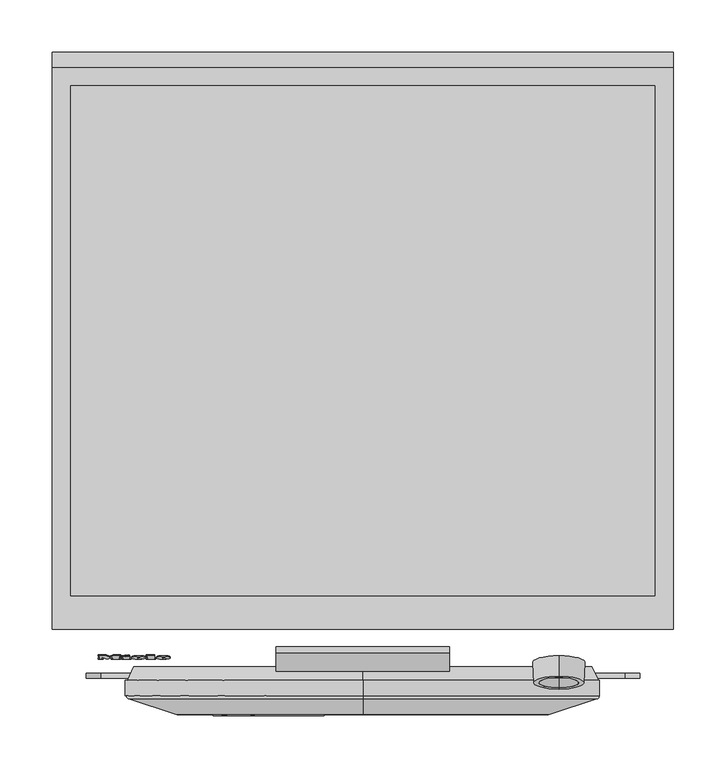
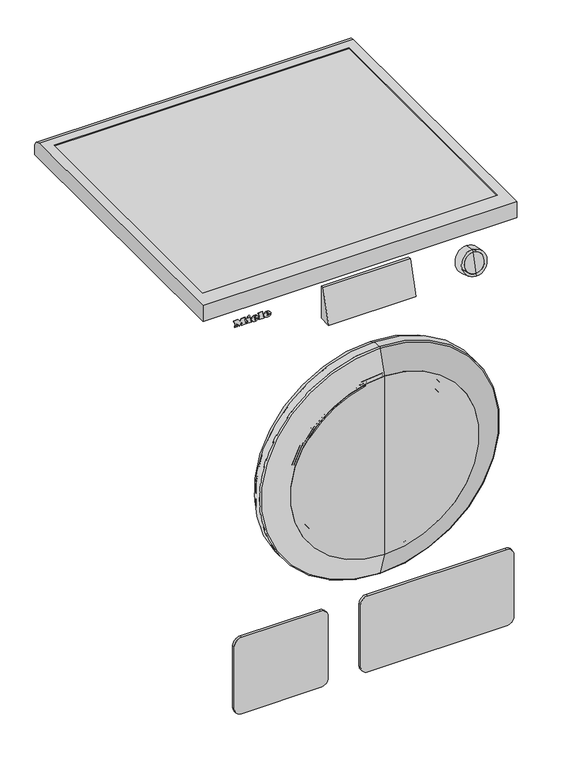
"""IFC4 building model written with IfcOpenShell, lengths in millimetres: proxy geometry, 12130150_NL_WEF674WPS_LW : 11EF6743_NL_12130150_WEF674WPS_LW."""

from ifc_helpers import new_model, si_unit, point, frame, frame_2d, origin, place, context, project, spatial, polyline, circle_curve, ellipse_curve, trimmed, segment, composite_curve, outline, extrude, source, transform, mapped, element, save
from ifc_brep_helpers import plane_surface, cylinder_surface, revolved_surface, extruded_surface, advanced_brep


def specialty_equipment_6f7c696d(model_context):
    return source(origin(), model_context, "Body", "SolidModel", [
        extrude(outline(polyline([(0.0, 0.0), (0.0, -1.8582), (-7.9458, -1.8582), (-11.286, 2.4168), (-14.6148, -1.8582), (-21.5574, -1.8582), (-21.5574, 0.0), (-20.1096, 0.0), (-20.1096, 7.6266), (-21.5574, 7.6266), (-21.5574, 9.5418), (-12.4602, 9.5418), (-12.4602, 7.6266), (-13.8624, 7.6266), (-13.8624, 2.6015777), (-8.7438, 9.5418), (-3.648, 2.7988753), (-3.648, 7.6266), (-5.016, 7.6266), (-5.016, 9.5418), (0.0, 9.5418), (0.0, 7.6266), (-1.3794, 7.6266), (-1.3794, 0.0), (0.0, 0.0)])), frame((-254.0, -578.2806922, 817.2814843), z_axis=(0.0, -0.9659258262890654, 0.2588190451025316), x_axis=(-1.0, 0.0, 0.0)), (0.0, 0.0, 1.0), 1.0),
        extrude(outline(polyline([(0.0, 0.0), (-0.0155448, -4.2740444), (-2.0506341, -4.2637237), (-2.0399312, 0.0), (0.0, 0.0)])), frame((-228.464, -577.9348294, 818.5722618), z_axis=(0.0, -0.9659258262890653, 0.2588190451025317), x_axis=(-0.4247202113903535, 0.23431526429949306, 0.8744764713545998)), (0.0, 0.0, 1.0), 1.0),
        extrude(outline(polyline([(-0.7030818, 3.4401063), (-3.9616202, -3.5057256), (-10.0405132, -0.6538993), (-10.6021632, -1.8511006), (-12.336041, -1.0376764), (-8.5158526, 7.1053568), (-6.7819748, 6.2919326), (-7.3581502, 5.0637692), (-3.1266627, 3.0786269), (-2.5504873, 4.3067903), (-0.7030818, 3.4401063)])), frame((-228.464, -577.9348294, 818.5722618), z_axis=(0.0, -0.9659258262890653, 0.2588190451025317), x_axis=(-0.4247202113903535, 0.23431526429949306, 0.8744764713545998)), (0.0, 0.0, 1.0), 1.0),
        extrude(outline(polyline([(0.0, 0.0), (0.0, -1.8582), (-7.8432, -1.8582), (-7.8432, 7.6266), (-9.2454, 7.6266), (-9.2454, 9.5418), (0.0, 9.5418), (0.0, 7.6266), (-1.368, 7.6266), (-1.368, 0.0), (0.0, 0.0)])), frame((-207.7388, -578.2806922, 817.2814843), z_axis=(0.0, -0.9659258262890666, 0.2588190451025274), x_axis=(-1.0, 0.0, 0.0)), (0.0, 0.0, 1.0), 1.0),
        advanced_brep(
        [(-216.0038, -581.029736, 810.8856165), (-216.0038, -580.7317318, 811.9977835), (-208.3772, -580.7317318, 811.9977835), (-221.6468, -580.7317318, 811.9977835), (-218.5118, -581.7290133, 808.2758781), (-208.571, -581.029736, 810.8856165), (-212.0138, -581.029736, 810.8856165), (-214.727, -581.3601962, 809.6523224), (-216.0038, -580.354063, 813.4072624), (-216.0038, -580.0324545, 814.6075219), (-214.0544, -580.0324545, 814.6075219), (-214.0544, -580.354063, 813.4072624), (-216.0038, -580.0638102, 810.6267974), (-214.727, -580.3942704, 809.3935033), (-212.0138, -580.0638102, 810.6267974), (-208.571, -580.0638102, 810.6267974), (-218.5118, -580.7630875, 808.017059), (-221.6468, -579.765806, 811.7389644), (-208.3772, -579.765806, 811.7389644), (-216.0038, -579.765806, 811.7389644), (-216.0038, -579.3881372, 813.1484434), (-214.0544, -579.3881372, 813.1484434), (-214.0544, -579.0665287, 814.3487028), (-216.0038, -579.0665287, 814.3487028)],
        [
            (0, 1),
            (1, 2),
            (2, 3, ellipse_curve(frame((-215.012, -580.7317318, 811.9977835), z_axis=(0.0, -0.9659258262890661, 0.2588190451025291), x_axis=(-1.0, 0.0, 0.0)), 6.6348, 5.4834)),
            (3, 4, circle_curve(frame((-217.2349378, -580.6314135, 812.3721763), z_axis=(0.0, -0.9659258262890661, 0.2588190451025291), x_axis=(0.0, -0.2588190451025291, -0.9659258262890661)), 4.4288556)),
            (4, 5, circle_curve(frame((-215.1448192, -579.8524717, 815.2792267), z_axis=(0.0, -0.9659258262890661, 0.2588190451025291), x_axis=(0.0, -0.2588190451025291, -0.9659258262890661)), 7.9940516)),
            (5, 6),
            (6, 7, circle_curve(frame((-214.1697412, -580.7553361, 811.909691), z_axis=(0.0, 0.9659258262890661, -0.2588190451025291), x_axis=(0.0, -0.2588190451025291, -0.9659258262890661)), 2.4025208)),
            (7, 0, circle_curve(frame((-214.727, -581.029736, 810.8856165), z_axis=(0.0, 0.9659258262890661, -0.2588190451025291), x_axis=(0.0, -0.2588190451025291, -0.9659258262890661)), 1.2768)),
            (8, 9),
            (9, 10, circle_curve(frame((-215.0291, -580.0324545, 814.6075219), z_axis=(0.0, 0.9659258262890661, -0.2588190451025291), x_axis=(0.0, -0.2588190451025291, -0.9659258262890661)), 0.9747)),
            (10, 11),
            (11, 8),
            (12, 13, circle_curve(frame((-214.727, -580.0638102, 810.6267974), z_axis=(0.0, -0.9659258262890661, 0.2588190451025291), x_axis=(0.0, -0.2588190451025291, -0.9659258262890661)), 1.2768)),
            (13, 14, circle_curve(frame((-214.1697412, -579.7894103, 811.650872), z_axis=(0.0, -0.9659258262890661, 0.2588190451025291), x_axis=(0.0, -0.2588190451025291, -0.9659258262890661)), 2.4025208)),
            (14, 15),
            (15, 16, circle_curve(frame((-215.1448192, -578.8865459, 815.0204076), z_axis=(0.0, 0.9659258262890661, -0.2588190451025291), x_axis=(0.0, -0.2588190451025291, -0.9659258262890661)), 7.9940516)),
            (16, 17, circle_curve(frame((-217.2349378, -579.6654877, 812.1133573), z_axis=(0.0, 0.9659258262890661, -0.2588190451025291), x_axis=(0.0, -0.2588190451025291, -0.9659258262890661)), 4.4288556)),
            (17, 18, ellipse_curve(frame((-215.012, -579.765806, 811.7389644), z_axis=(0.0, 0.9659258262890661, -0.2588190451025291), x_axis=(-1.0, 0.0, 0.0)), 6.6348, 5.4834)),
            (18, 19),
            (19, 12),
            (20, 21),
            (21, 22),
            (22, 23, circle_curve(frame((-215.0291, -579.0665287, 814.3487028), z_axis=(0.0, -0.9659258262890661, 0.2588190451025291), x_axis=(0.0, -0.2588190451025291, -0.9659258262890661)), 0.9747)),
            (23, 20),
            (0, 12),
            (19, 1),
            (18, 2),
            (5, 15),
            (14, 6),
            (17, 3),
            (13, 7),
            (16, 4),
            (8, 20),
            (23, 9),
            (22, 10),
            (21, 11),
        ],
        [
            plane_surface(frame((-216.0038, -580.7317318, 811.9977835), z_axis=(0.0, -0.9659258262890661, 0.2588190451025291), x_axis=(0.0, 0.2588190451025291, 0.9659258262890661))),
            plane_surface(frame((-216.0038, -579.765806, 811.7389644), z_axis=(0.0, 0.9659258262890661, -0.2588190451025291), x_axis=(0.0, -0.2588190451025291, -0.9659258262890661))),
            plane_surface(frame((-216.0038, -581.029736, 810.8856165), z_axis=(1.0, 0.0, 0.0), x_axis=(0.0, 0.9659258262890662, -0.25881904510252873))),
            plane_surface(frame((-216.0038, -580.7317318, 811.9977835), z_axis=(0.0, -0.25881904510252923, -0.9659258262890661), x_axis=(0.0, 0.9659258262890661, -0.25881904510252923))),
            plane_surface(frame((-208.571, -581.029736, 810.8856165), z_axis=(0.0, 0.25881904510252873, 0.9659258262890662), x_axis=(0.0, 0.9659258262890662, -0.25881904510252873))),
            extruded_surface(trimmed(ellipse_curve(frame((-215.012, -578.7998801, 811.4801454), z_axis=(0.0, -0.9659258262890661, 0.2588190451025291), x_axis=(-1.0, 0.0, 0.0)), 6.6348, 5.4834), [point((-208.3772, -578.7998801, 811.4801454))], [point((-221.6468, -578.7998801, 811.4801454))], True, "CARTESIAN"), (0.0, -0.965925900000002, 0.2588190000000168), 1.0000000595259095),
            revolved_surface(polyline([(-214.1697412, -580.4112283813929, 809.3302150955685), (-214.1697412, -581.3771542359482, 809.589034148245)]), (-214.1697412, -579.7894103, 811.650872), (0.0, 0.9659258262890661, -0.2588190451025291)),
            revolved_surface(polyline([(-214.727, -580.3942703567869, 809.393503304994), (-214.727, -581.3601962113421, 809.6523223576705)]), (-214.727, -580.0638102, 810.6267974), (0.0, 0.9659258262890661, -0.2588190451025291)),
            cylinder_surface(frame((-217.2349378, -579.6654877, 812.1133573), z_axis=(0.0, -0.9659258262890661, 0.2588190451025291), x_axis=(0.0, -0.2588190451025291, -0.9659258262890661)), 4.4288556),
            cylinder_surface(frame((-215.1448192, -578.8865459, 815.0204076), z_axis=(0.0, -0.9659258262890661, 0.2588190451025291), x_axis=(0.0, -0.2588190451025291, -0.9659258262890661)), 7.9940516),
            plane_surface(frame((-216.0038, -580.354063, 813.4072624), z_axis=(1.0, 0.0, 0.0), x_axis=(0.0, 0.9659258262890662, -0.25881904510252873))),
            revolved_surface(polyline([(-215.0291, -579.3187996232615, 813.407214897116), (-215.0291, -580.2847254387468, 813.6660339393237)]), (-215.0291, -579.0665287, 814.3487028), (0.0, 0.9659258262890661, -0.2588190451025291)),
            plane_surface(frame((-214.0544, -580.0324545, 814.6075219), z_axis=(-1.0, 0.0, 0.0), x_axis=(0.0, 0.9659258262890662, -0.25881904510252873))),
            plane_surface(frame((-214.0544, -580.354063, 813.4072624), z_axis=(0.0, 0.25881904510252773, 0.9659258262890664), x_axis=(0.0, 0.9659258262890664, -0.25881904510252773))),
        ],
        [
            (0, [[1, 2, 3, 4, 5, 6, 7, 8], [9, 10, 11, 12]]),
            (1, [[13, 14, 15, 16, 17, 18, 19, 20], [21, 22, 23, 24]]),
            (2, [[-1, 25, -20, 26]]),
            (3, [[-2, -26, -19, 27]]),
            (4, [[-6, 28, -15, 29]]),
            (5, [[-3, -27, -18, 30]]),
            (6, [[-7, -29, -14, 31]]),
            (7, [[-8, -31, -13, -25]]),
            (8, [[-4, -30, -17, 32]]),
            (9, [[-5, -32, -16, -28]]),
            (10, [[-9, 33, -24, 34]]),
            (11, [[-10, -34, -23, 35]]),
            (12, [[-11, -35, -22, 36]]),
            (13, [[-12, -36, -21, -33]]),
        ],
    ),
        advanced_brep(
        [(-192.212, -581.029736, 810.8856165), (-192.212, -580.7317318, 811.9977835), (-184.5854, -580.7317318, 811.9977835), (-197.855, -580.7317318, 811.9977835), (-194.72, -581.7290133, 808.2758781), (-184.7792, -581.029736, 810.8856165), (-188.222, -581.029736, 810.8856165), (-190.9352, -581.3601962, 809.6523224), (-192.212, -580.354063, 813.4072624), (-192.212, -580.0324545, 814.6075219), (-190.2626, -580.0324545, 814.6075219), (-190.2626, -580.354063, 813.4072624), (-192.212, -580.0638102, 810.6267974), (-190.9352, -580.3942704, 809.3935033), (-188.222, -580.0638102, 810.6267974), (-184.7792, -580.0638102, 810.6267974), (-194.72, -580.7630875, 808.017059), (-197.855, -579.765806, 811.7389644), (-184.5854, -579.765806, 811.7389644), (-192.212, -579.765806, 811.7389644), (-192.212, -579.3881372, 813.1484434), (-190.2626, -579.3881372, 813.1484434), (-190.2626, -579.0665287, 814.3487028), (-192.212, -579.0665287, 814.3487028)],
        [
            (0, 1),
            (1, 2),
            (2, 3, ellipse_curve(frame((-191.2202, -580.7317318, 811.9977835), z_axis=(0.0, -0.965925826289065, 0.25881904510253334), x_axis=(-1.0, 0.0, 0.0)), 6.6348, 5.4834)),
            (3, 4, circle_curve(frame((-193.4431378, -580.6314135, 812.3721763), z_axis=(0.0, -0.9659258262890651, 0.25881904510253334), x_axis=(0.0, -0.2588190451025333, -0.9659258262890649)), 4.4288556)),
            (4, 5, circle_curve(frame((-191.3530192, -579.8524717, 815.2792267), z_axis=(0.0, -0.9659258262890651, 0.25881904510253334), x_axis=(0.0, -0.2588190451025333, -0.9659258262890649)), 7.9940516)),
            (5, 6),
            (6, 7, circle_curve(frame((-190.3779412, -580.7553361, 811.909691), z_axis=(0.0, 0.9659258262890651, -0.25881904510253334), x_axis=(0.0, -0.2588190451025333, -0.9659258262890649)), 2.4025208)),
            (7, 0, circle_curve(frame((-190.9352, -581.029736, 810.8856165), z_axis=(0.0, 0.9659258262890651, -0.25881904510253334), x_axis=(0.0, -0.2588190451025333, -0.9659258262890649)), 1.2768)),
            (8, 9),
            (9, 10, circle_curve(frame((-191.2373, -580.0324545, 814.6075219), z_axis=(0.0, 0.9659258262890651, -0.25881904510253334), x_axis=(0.0, -0.2588190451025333, -0.9659258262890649)), 0.9747)),
            (10, 11),
            (11, 8),
            (12, 13, circle_curve(frame((-190.9352, -580.0638102, 810.6267974), z_axis=(0.0, -0.9659258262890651, 0.25881904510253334), x_axis=(0.0, -0.2588190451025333, -0.9659258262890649)), 1.2768)),
            (13, 14, circle_curve(frame((-190.3779412, -579.7894103, 811.650872), z_axis=(0.0, -0.9659258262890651, 0.25881904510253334), x_axis=(0.0, -0.2588190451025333, -0.9659258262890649)), 2.4025208)),
            (14, 15),
            (15, 16, circle_curve(frame((-191.3530192, -578.8865459, 815.0204076), z_axis=(0.0, 0.9659258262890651, -0.25881904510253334), x_axis=(0.0, -0.2588190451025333, -0.9659258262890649)), 7.9940516)),
            (16, 17, circle_curve(frame((-193.4431378, -579.6654877, 812.1133573), z_axis=(0.0, 0.9659258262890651, -0.25881904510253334), x_axis=(0.0, -0.2588190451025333, -0.9659258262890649)), 4.4288556)),
            (17, 18, ellipse_curve(frame((-191.2202, -579.765806, 811.7389644), z_axis=(0.0, 0.965925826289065, -0.25881904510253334), x_axis=(-1.0, 0.0, 0.0)), 6.6348, 5.4834)),
            (18, 19),
            (19, 12),
            (20, 21),
            (21, 22),
            (22, 23, circle_curve(frame((-191.2373, -579.0665287, 814.3487028), z_axis=(0.0, -0.9659258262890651, 0.25881904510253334), x_axis=(0.0, -0.2588190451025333, -0.9659258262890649)), 0.9747)),
            (23, 20),
            (0, 12),
            (19, 1),
            (18, 2),
            (5, 15),
            (14, 6),
            (17, 3),
            (13, 7),
            (16, 4),
            (8, 20),
            (23, 9),
            (22, 10),
            (21, 11),
        ],
        [
            plane_surface(frame((-192.212, -580.7317318, 811.9977835), z_axis=(0.0, -0.965925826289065, 0.25881904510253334), x_axis=(0.0, 0.25881904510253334, 0.965925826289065))),
            plane_surface(frame((-192.212, -579.765806, 811.7389644), z_axis=(0.0, 0.965925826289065, -0.25881904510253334), x_axis=(0.0, -0.25881904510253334, -0.965925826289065))),
            plane_surface(frame((-192.212, -581.029736, 810.8856165), z_axis=(1.0, 0.0, 0.0), x_axis=(0.0, 0.9659258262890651, -0.2588190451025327))),
            plane_surface(frame((-192.212, -580.7317318, 811.9977835), z_axis=(0.0, -0.25881904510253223, -0.9659258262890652), x_axis=(0.0, 0.9659258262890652, -0.25881904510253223))),
            plane_surface(frame((-184.7792, -581.029736, 810.8856165), z_axis=(0.0, 0.2588190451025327, 0.9659258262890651), x_axis=(0.0, 0.9659258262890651, -0.2588190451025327))),
            extruded_surface(trimmed(ellipse_curve(frame((-191.2202, -578.7998801, 811.4801454), z_axis=(0.0, -0.965925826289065, 0.25881904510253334), x_axis=(-1.0, 0.0, 0.0)), 6.6348, 5.4834), [point((-184.5854, -578.7998801, 811.4801454))], [point((-197.855, -578.7998801, 811.4801454))], True, "CARTESIAN"), (0.0, -0.965925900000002, 0.2588190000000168), 1.0000000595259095),
            revolved_surface(polyline([(-190.3779412, -580.4112283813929, 809.3302150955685), (-190.3779412, -581.3771542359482, 809.589034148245)]), (-190.3779412, -579.7894103, 811.650872), (0.0, 0.9659258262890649, -0.2588190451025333)),
            revolved_surface(polyline([(-190.9352, -580.3942703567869, 809.393503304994), (-190.9352, -581.3601962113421, 809.6523223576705)]), (-190.9352, -580.0638102, 810.6267974), (0.0, 0.9659258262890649, -0.2588190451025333)),
            cylinder_surface(frame((-193.4431378, -579.6654877, 812.1133573), z_axis=(0.0, -0.9659258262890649, 0.2588190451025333), x_axis=(0.0, -0.2588190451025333, -0.9659258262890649)), 4.4288556),
            cylinder_surface(frame((-191.3530192, -578.8865459, 815.0204076), z_axis=(0.0, -0.9659258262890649, 0.2588190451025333), x_axis=(0.0, -0.2588190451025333, -0.9659258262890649)), 7.9940516),
            plane_surface(frame((-192.212, -580.354063, 813.4072624), z_axis=(1.0, 0.0, 0.0), x_axis=(0.0, 0.9659258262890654, -0.25881904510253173))),
            revolved_surface(polyline([(-191.2373, -579.3187996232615, 813.407214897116), (-191.2373, -580.2847254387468, 813.6660339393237)]), (-191.2373, -579.0665287, 814.3487028), (0.0, 0.9659258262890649, -0.2588190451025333)),
            plane_surface(frame((-190.2626, -580.0324545, 814.6075219), z_axis=(-1.0, 0.0, 0.0), x_axis=(0.0, 0.9659258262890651, -0.2588190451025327))),
            plane_surface(frame((-190.2626, -580.354063, 813.4072624), z_axis=(0.0, 0.2588190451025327, 0.9659258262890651), x_axis=(0.0, 0.9659258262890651, -0.2588190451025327))),
        ],
        [
            (0, [[1, 2, 3, 4, 5, 6, 7, 8], [9, 10, 11, 12]]),
            (1, [[13, 14, 15, 16, 17, 18, 19, 20], [21, 22, 23, 24]]),
            (2, [[-1, 25, -20, 26]]),
            (3, [[-2, -26, -19, 27]]),
            (4, [[-6, 28, -15, 29]]),
            (5, [[-3, -27, -18, 30]]),
            (6, [[-7, -29, -14, 31]]),
            (7, [[-8, -31, -13, -25]]),
            (8, [[-4, -30, -17, 32]]),
            (9, [[-5, -32, -16, -28]]),
            (10, [[-9, 33, -24, 34]]),
            (11, [[-10, -34, -23, 35]]),
            (12, [[-11, -35, -22, 36]]),
            (13, [[-12, -36, -21, -33]]),
        ],
    ),
        extrude(outline(composite_curve([segment(trimmed(circle_curve(frame_2d((475.0, 0.0)), 179.0077488), [point((650.0572384, -37.3996979))], [point((581.8669772, -143.6078804))], False, "CARTESIAN"), True, "CONTINUOUS"), segment(polyline([(581.8669772, -143.6078804), (580.6729844, -142.0033925)]), True, "CONTINUOUS"), segment(trimmed(circle_curve(frame_2d((475.0, 0.0)), 177.0077488), [point((580.6729844, -142.0033925))], [point((648.1013763, -36.9818423))], True, "CARTESIAN"), True, "CONTINUOUS"), segment(polyline([(648.1013763, -36.9818423), (650.0572384, -37.3996979)]), True, "CONTINUOUS")], self_intersect=False)), frame((0.0, -636.0, 0.0), z_axis=(0.0, 1.0, 0.0), x_axis=(0.0, 0.0, 1.0)), (0.0, 0.0, 1.0), 1.0),
        advanced_brep(
        [(0.0, -610.8709778, 313.0), (0.0, -610.8709778, 637.0), (0.0, -592.0, 637.0), (0.0, -592.0, 313.0), (0.0, -628.93239, 652.7005461), (0.0, -628.93239, 297.2994539), (0.0, -630.9005671, 650.4364173), (0.0, -630.9005671, 299.5635827), (0.0, -592.0, 326.0), (0.0, -592.0, 624.0), (0.0, -589.0, 326.0), (0.0, -589.0, 624.0), (0.0, -589.0, 475.0), (0.0, -635.0, 296.0), (0.0, -635.0, 654.0), (0.0, -635.0, 475.0)],
        [
            (0, 1, circle_curve(frame((0.0, -610.8709778, 475.0), z_axis=(0.0, 1.0, 0.0), x_axis=(0.0, 0.0, 1.0)), 162.0)),
            (1, 2),
            (2, 3, circle_curve(frame((0.0, -592.0, 475.0), z_axis=(0.0, -1.0, 0.0), x_axis=(0.0, 0.0, 1.0)), 162.0)),
            (3, 0),
            (4, 5, circle_curve(frame((0.0, -628.93239, 475.0), z_axis=(0.0, 1.0, 0.0), x_axis=(0.0, 0.0, 1.0)), 177.7005461)),
            (5, 0),
            (0, 1, circle_curve(frame((0.0, -610.8709778, 475.0), z_axis=(0.0, -1.0, 0.0), x_axis=(0.0, 0.0, 1.0)), 162.0)),
            (1, 4),
            (6, 7, circle_curve(frame((0.0, -630.9005671, 475.0), z_axis=(0.0, 1.0, 0.0), x_axis=(0.0, 0.0, 1.0)), 175.4364173)),
            (7, 5),
            (4, 6),
            (2, 3, circle_curve(frame((0.0, -592.0, 475.0), z_axis=(0.0, 1.0, 0.0), x_axis=(0.0, 0.0, 1.0)), 162.0)),
            (3, 8),
            (8, 9, circle_curve(frame((0.0, -592.0, 475.0), z_axis=(0.0, -1.0, 0.0), x_axis=(0.0, 0.0, 1.0)), 149.0)),
            (9, 2),
            (10, 11, circle_curve(frame((0.0, -589.0, 475.0), z_axis=(0.0, 1.0, 0.0), x_axis=(0.0, 0.0, 1.0)), 149.0)),
            (11, 12),
            (12, 10),
            (8, 9, circle_curve(frame((0.0, -592.0, 475.0), z_axis=(0.0, 1.0, 0.0), x_axis=(0.0, 0.0, 1.0)), 149.0)),
            (9, 11),
            (10, 8),
            (13, 14, circle_curve(frame((0.0, -635.0, 475.0), z_axis=(0.0, 1.0, 0.0), x_axis=(0.0, 0.0, 1.0)), 179.0)),
            (14, 6),
            (6, 7, circle_curve(frame((0.0, -630.9005671, 475.0), z_axis=(0.0, -1.0, 0.0), x_axis=(0.0, 0.0, 1.0)), 175.4364173)),
            (7, 13),
            (14, 13, circle_curve(frame((0.0, -635.0, 475.0), z_axis=(0.0, 1.0, 0.0), x_axis=(0.0, 0.0, 1.0)), 179.0)),
            (15, 14),
            (13, 15),
            (11, 10, circle_curve(frame((0.0, -589.0, 475.0), z_axis=(0.0, 1.0, 0.0), x_axis=(0.0, 0.0, 1.0)), 149.0)),
            (5, 4, circle_curve(frame((0.0, -628.93239, 475.0), z_axis=(0.0, 1.0, 0.0), x_axis=(0.0, 0.0, 1.0)), 177.7005461)),
        ],
        [
            cylinder_surface(frame((0.0, -2342.7556811, 475.0), z_axis=(0.0, -1.0, 0.0), x_axis=(0.0, 0.0, 1.0)), 162.0),
            revolved_surface(polyline([(0.0, -610.8709778, 637.0), (0.0, -628.93239, 652.7005461)]), (0.0, -2342.7556811, 475.0), (0.0, -1.0, 0.0)),
            revolved_surface(polyline([(0.0, -628.93239, 652.7005461), (0.0, -630.9005671, 650.4364173)]), (0.0, -2342.7556811, 475.0), (0.0, -1.0, 0.0)),
            plane_surface(frame((0.0, -592.0, 475.0), z_axis=(0.0, 1.0, 0.0), x_axis=(0.0, 0.0, 1.0))),
            plane_surface(frame((0.0, -589.0, 475.0), z_axis=(0.0, 1.0, 0.0), x_axis=(0.0, 0.0, 1.0))),
            cylinder_surface(frame((0.0, -2342.7556811, 475.0), z_axis=(0.0, -1.0, 0.0), x_axis=(0.0, 0.0, 1.0)), 149.0),
            revolved_surface(polyline([(0.0, -630.9005671, 650.4364173), (0.0, -635.0, 654.0)]), (0.0, -2342.7556811, 475.0), (0.0, -1.0, 0.0)),
            plane_surface(frame((0.0, -635.0, 475.0), z_axis=(0.0, -1.0, 0.0), x_axis=(0.0, 0.0, 1.0))),
        ],
        [
            (0, [[1, 2, 3, 4]]),
            (1, [[5, 6, 7, 8]]),
            (2, [[9, 10, -5, 11]]),
            (3, [[12, 13, 14, 15]]),
            (4, [[16, 17, 18]]),
            (5, [[19, 20, -16, 21]]),
            (6, [[22, 23, 24, 25]]),
            (6, [[26, -25, -9, -23]]),
            (7, [[27, -22, 28]]),
            (7, [[-28, -26, -27]]),
            (4, [[29, -18, -17]]),
            (5, [[-14, -21, -29, -20]]),
            (3, [[-3, -15, -19, -13]]),
            (0, [[-7, -4, -12, -2]]),
            (1, [[30, -8, -1, -6]]),
            (2, [[-24, -11, -30, -10]]),
        ],
    ),
        advanced_brep(
        [(0.0, -602.0, 313.0), (0.0, -602.0, 637.0), (0.0, -602.0, 702.0), (0.0, -602.0, 248.0), (0.0, -592.0, 326.0), (0.0, -592.0, 624.0), (0.0, -592.0, 637.0), (0.0, -592.0, 313.0), (0.0, -589.0, 326.0), (0.0, -589.0, 624.0), (0.0, -589.0, 254.0), (0.0, -589.0, 696.0)],
        [
            (0, 1, circle_curve(frame((0.0, -602.0, 475.0), z_axis=(0.0, 1.0, 0.0), x_axis=(0.0, 0.0, 1.0)), 162.0)),
            (1, 2),
            (2, 3, circle_curve(frame((0.0, -602.0, 475.0), z_axis=(0.0, -1.0, 0.0), x_axis=(0.0, 0.0, 1.0)), 227.0)),
            (3, 0),
            (4, 5, circle_curve(frame((0.0, -592.0, 475.0), z_axis=(0.0, 1.0, 0.0), x_axis=(0.0, 0.0, 1.0)), 149.0)),
            (5, 6),
            (6, 7, circle_curve(frame((0.0, -592.0, 475.0), z_axis=(0.0, -1.0, 0.0), x_axis=(0.0, 0.0, 1.0)), 162.0)),
            (7, 4),
            (5, 4, circle_curve(frame((0.0, -592.0, 475.0), z_axis=(0.0, 1.0, 0.0), x_axis=(0.0, 0.0, 1.0)), 149.0)),
            (7, 6, circle_curve(frame((0.0, -592.0, 475.0), z_axis=(0.0, -1.0, 0.0), x_axis=(0.0, 0.0, 1.0)), 162.0)),
            (8, 9, circle_curve(frame((0.0, -589.0, 475.0), z_axis=(0.0, 1.0, 0.0), x_axis=(0.0, 0.0, 1.0)), 149.0)),
            (9, 5),
            (4, 8),
            (2, 3, circle_curve(frame((0.0, -602.0, 475.0), z_axis=(0.0, 1.0, 0.0), x_axis=(0.0, 0.0, 1.0)), 227.0)),
            (3, 10),
            (10, 11, circle_curve(frame((0.0, -589.0, 475.0), z_axis=(0.0, -1.0, 0.0), x_axis=(0.0, 0.0, 1.0)), 221.0)),
            (11, 2),
            (10, 11, circle_curve(frame((0.0, -589.0, 475.0), z_axis=(0.0, 1.0, 0.0), x_axis=(0.0, 0.0, 1.0)), 221.0)),
            (11, 9),
            (8, 10),
            (8, 9, circle_curve(frame((0.0, -589.0, 475.0), z_axis=(0.0, -1.0, 0.0), x_axis=(0.0, 0.0, 1.0)), 149.0)),
            (1, 0, circle_curve(frame((0.0, -602.0, 475.0), z_axis=(0.0, 1.0, 0.0), x_axis=(0.0, 0.0, 1.0)), 162.0)),
            (6, 1),
            (0, 7),
        ],
        [
            plane_surface(frame((0.0, -602.0, 475.0), z_axis=(0.0, -1.0, 0.0), x_axis=(0.0, 0.0, 1.0))),
            plane_surface(frame((0.0, -592.0, 475.0), z_axis=(0.0, -1.0, 0.0), x_axis=(0.0, 0.0, 1.0))),
            revolved_surface(polyline([(0.0, -592.0, 624.0), (0.0, -589.0, 624.0)]), (0.0, -2342.7556811, 475.0), (0.0, -1.0, 0.0)),
            revolved_surface(polyline([(0.0, -589.0, 696.0), (0.0, -602.0, 702.0)]), (0.0, -2342.7556811, 475.0), (0.0, -1.0, 0.0)),
            plane_surface(frame((0.0, -589.0, 475.0), z_axis=(0.0, 1.0, 0.0), x_axis=(0.0, 0.0, 1.0))),
            revolved_surface(polyline([(0.0, -602.0, 637.0), (0.0, -592.0, 637.0)]), (0.0, -2342.7556811, 475.0), (0.0, -1.0, 0.0)),
        ],
        [
            (0, [[1, 2, 3, 4]]),
            (1, [[5, 6, 7, 8]]),
            (1, [[9, -8, 10, -6]]),
            (2, [[11, 12, -5, 13]]),
            (3, [[14, 15, 16, 17]]),
            (4, [[18, 19, -11, 20]]),
            (4, [[-16, -20, 21, -19]]),
            (3, [[-3, -17, -18, -15]]),
            (0, [[22, -4, -14, -2]]),
            (5, [[-7, 23, -1, 24]]),
            (5, [[-10, -24, -22, -23]]),
            (2, [[-21, -13, -9, -12]]),
        ],
    ),
        advanced_brep(
        [(0.0, -602.0, 313.0), (0.0, -602.0, 637.0), (0.0, -610.8709778, 637.0), (0.0, -610.8709778, 313.0), (0.0, -602.0, 310.0), (0.0, -602.0, 640.0), (0.0, -609.7493238, 310.0), (0.0, -609.7493238, 640.0), (0.0, -628.93239, 297.2994539), (0.0, -628.93239, 652.7005461), (0.0, -626.9642129, 654.9646748), (0.0, -626.9642129, 295.0353252)],
        [
            (0, 1, circle_curve(frame((0.0, -602.0, 475.0), z_axis=(0.0, 1.0, 0.0), x_axis=(0.0, 0.0, 1.0)), 162.0)),
            (1, 2),
            (2, 3, circle_curve(frame((0.0, -610.8709778, 475.0), z_axis=(0.0, -1.0, 0.0), x_axis=(0.0, 0.0, 1.0)), 162.0)),
            (3, 0),
            (4, 5, circle_curve(frame((0.0, -602.0, 475.0), z_axis=(0.0, 1.0, 0.0), x_axis=(0.0, 0.0, 1.0)), 165.0)),
            (5, 1),
            (0, 4),
            (6, 7, circle_curve(frame((0.0, -609.7493238, 475.0), z_axis=(0.0, 1.0, 0.0), x_axis=(0.0, 0.0, 1.0)), 165.0)),
            (7, 5),
            (4, 6),
            (2, 3, circle_curve(frame((0.0, -610.8709778, 475.0), z_axis=(0.0, 1.0, 0.0), x_axis=(0.0, 0.0, 1.0)), 162.0)),
            (3, 8),
            (8, 9, circle_curve(frame((0.0, -628.93239, 475.0), z_axis=(0.0, -1.0, 0.0), x_axis=(0.0, 0.0, 1.0)), 177.7005461)),
            (9, 2),
            (8, 9, circle_curve(frame((0.0, -628.93239, 475.0), z_axis=(0.0, 1.0, 0.0), x_axis=(0.0, 0.0, 1.0)), 177.7005461)),
            (9, 10),
            (10, 11, circle_curve(frame((0.0, -626.9642129, 475.0), z_axis=(0.0, -1.0, 0.0), x_axis=(0.0, 0.0, 1.0)), 179.9646748)),
            (11, 8),
            (11, 10, circle_curve(frame((0.0, -626.9642129, 475.0), z_axis=(0.0, -1.0, 0.0), x_axis=(0.0, 0.0, 1.0)), 179.9646748)),
            (1, 0, circle_curve(frame((0.0, -602.0, 475.0), z_axis=(0.0, 1.0, 0.0), x_axis=(0.0, 0.0, 1.0)), 162.0)),
            (10, 7),
            (6, 11),
            (6, 7, circle_curve(frame((0.0, -609.7493238, 475.0), z_axis=(0.0, -1.0, 0.0), x_axis=(0.0, 0.0, 1.0)), 165.0)),
            (5, 4, circle_curve(frame((0.0, -602.0, 475.0), z_axis=(0.0, 1.0, 0.0), x_axis=(0.0, 0.0, 1.0)), 165.0)),
        ],
        [
            revolved_surface(polyline([(0.0, -610.8709778, 637.0), (0.0, -602.0, 637.0)]), (0.0, -2342.7556811, 475.0), (0.0, -1.0, 0.0)),
            plane_surface(frame((0.0, -602.0, 475.0), z_axis=(0.0, 1.0, 0.0), x_axis=(0.0, 0.0, 1.0))),
            cylinder_surface(frame((0.0, -2342.7556811, 475.0), z_axis=(0.0, -1.0, 0.0), x_axis=(0.0, 0.0, 1.0)), 165.0),
            revolved_surface(polyline([(0.0, -628.93239, 652.7005461), (0.0, -610.8709778, 637.0)]), (0.0, -2342.7556811, 475.0), (0.0, -1.0, 0.0)),
            revolved_surface(polyline([(0.0, -626.9642129, 654.9646748), (0.0, -628.93239, 652.7005461)]), (0.0, -2342.7556811, 475.0), (0.0, -1.0, 0.0)),
            revolved_surface(polyline([(0.0, -609.7493238, 640.0), (0.0, -626.9642129, 654.9646748)]), (0.0, -2342.7556811, 475.0), (0.0, -1.0, 0.0)),
        ],
        [
            (0, [[1, 2, 3, 4]]),
            (1, [[5, 6, -1, 7]]),
            (2, [[8, 9, -5, 10]]),
            (3, [[11, 12, 13, 14]]),
            (4, [[15, 16, 17, 18]]),
            (4, [[-13, -18, 19, -16]]),
            (3, [[-3, -14, -15, -12]]),
            (0, [[20, -4, -11, -2]]),
            (5, [[-17, 21, -8, 22]]),
            (5, [[-19, -22, 23, -21]]),
            (1, [[24, -7, -20, -6]]),
            (2, [[-23, -10, -24, -9]]),
        ],
    ),
        advanced_brep(
        [(0.0, -626.9642129, 295.0353252), (0.0, -626.9642129, 654.9646748), (0.0, -630.9005671, 650.4364173), (0.0, -630.9005671, 299.5635827), (0.0, -602.0, 247.0), (0.0, -602.0, 703.0), (0.0, -602.0, 640.0), (0.0, -602.0, 310.0), (0.0, -609.7493238, 640.0), (0.0, -609.7493238, 310.0), (0.0, -635.0, 296.0), (0.0, -635.0, 654.0), (0.0, -616.8993073, 247.0), (0.0, -616.8993073, 703.0), (0.0, -619.7524768, 249.072949), (0.0, -619.7524768, 700.927051)],
        [
            (0, 1, circle_curve(frame((0.0, -626.9642129, 475.0), z_axis=(0.0, 1.0, 0.0), x_axis=(0.0, 0.0, 1.0)), 179.9646748)),
            (1, 2),
            (2, 3, circle_curve(frame((0.0, -630.9005671, 475.0), z_axis=(0.0, -1.0, 0.0), x_axis=(0.0, 0.0, 1.0)), 175.4364173)),
            (3, 0),
            (4, 5, circle_curve(frame((0.0, -602.0, 475.0), z_axis=(0.0, 1.0, 0.0), x_axis=(0.0, 0.0, 1.0)), 228.0)),
            (5, 6),
            (6, 7, circle_curve(frame((0.0, -602.0, 475.0), z_axis=(0.0, -1.0, 0.0), x_axis=(0.0, 0.0, 1.0)), 165.0)),
            (7, 4),
            (6, 8),
            (8, 9, circle_curve(frame((0.0, -609.7493238, 475.0), z_axis=(0.0, -1.0, 0.0), x_axis=(0.0, 0.0, 1.0)), 165.0)),
            (9, 7),
            (2, 3, circle_curve(frame((0.0, -630.9005671, 475.0), z_axis=(0.0, 1.0, 0.0), x_axis=(0.0, 0.0, 1.0)), 175.4364173)),
            (3, 10),
            (10, 11, circle_curve(frame((0.0, -635.0, 475.0), z_axis=(0.0, -1.0, 0.0), x_axis=(0.0, 0.0, 1.0)), 179.0)),
            (11, 2),
            (12, 13, circle_curve(frame((0.0, -616.8993073, 475.0), z_axis=(0.0, 1.0, 0.0), x_axis=(0.0, 0.0, 1.0)), 228.0)),
            (13, 5),
            (4, 12),
            (13, 12, circle_curve(frame((0.0, -616.8993073, 475.0), z_axis=(0.0, 1.0, 0.0), x_axis=(0.0, 0.0, 1.0)), 228.0)),
            (4, 5, circle_curve(frame((0.0, -602.0, 475.0), z_axis=(0.0, -1.0, 0.0), x_axis=(0.0, 0.0, 1.0)), 228.0)),
            (14, 15, circle_curve(frame((0.0, -619.7524768, 475.0), z_axis=(0.0, 1.0, 0.0), x_axis=(0.0, 0.0, 1.0)), 225.927051)),
            (15, 13, circle_curve(frame((0.0, -616.8993073, 700.0), z_axis=(-1.0, 0.0, 0.0), x_axis=(0.0, 1.0, 0.0)), 3.0)),
            (12, 14, circle_curve(frame((0.0, -616.8993073, 250.0), z_axis=(-1.0, 0.0, 0.0), x_axis=(0.0, 1.0, 0.0)), 3.0)),
            (15, 14, circle_curve(frame((0.0, -619.7524768, 475.0), z_axis=(0.0, 1.0, 0.0), x_axis=(0.0, 0.0, 1.0)), 225.927051)),
            (10, 11, circle_curve(frame((0.0, -635.0, 475.0), z_axis=(0.0, 1.0, 0.0), x_axis=(0.0, 0.0, 1.0)), 179.0)),
            (11, 15),
            (14, 10),
            (1, 0, circle_curve(frame((0.0, -626.9642129, 475.0), z_axis=(0.0, 1.0, 0.0), x_axis=(0.0, 0.0, 1.0)), 179.9646748)),
            (8, 1),
            (0, 9),
            (8, 9, circle_curve(frame((0.0, -609.7493238, 475.0), z_axis=(0.0, 1.0, 0.0), x_axis=(0.0, 0.0, 1.0)), 165.0)),
            (7, 6, circle_curve(frame((0.0, -602.0, 475.0), z_axis=(0.0, -1.0, 0.0), x_axis=(0.0, 0.0, 1.0)), 165.0)),
        ],
        [
            revolved_surface(polyline([(0.0, -630.9005671, 650.4364173), (0.0, -626.9642129, 654.9646748)]), (0.0, -2342.7556811, 475.0), (0.0, -1.0, 0.0)),
            plane_surface(frame((0.0, -602.0, 475.0), z_axis=(0.0, 1.0, 0.0), x_axis=(0.0, 0.0, 1.0))),
            revolved_surface(polyline([(0.0, -609.7493238, 640.0), (0.0, -602.0, 640.0)]), (0.0, -2342.7556811, 475.0), (0.0, -1.0, 0.0)),
            revolved_surface(polyline([(0.0, -635.0, 654.0), (0.0, -630.9005671, 650.4364173)]), (0.0, -2342.7556811, 475.0), (0.0, -1.0, 0.0)),
            cylinder_surface(frame((0.0, -2342.7556811, 475.0), z_axis=(0.0, -1.0, 0.0), x_axis=(0.0, 0.0, 1.0)), 228.0),
            revolved_surface(trimmed(ellipse_curve(frame((0.0, -616.8993073, 700.0), z_axis=(1.0, 0.0, 0.0), x_axis=(0.0, 1.0, 0.0)), 3.0, 3.0), [point((0.0, -616.8993073, 703.0))], [point((0.0, -619.7524768, 700.927051))], True, "CARTESIAN"), (0.0, -2342.7556811, 475.0), (0.0, -1.0, 0.0)),
            revolved_surface(polyline([(0.0, -619.7524768, 700.927051), (0.0, -635.0, 654.0)]), (0.0, -2342.7556811, 475.0), (0.0, -1.0, 0.0)),
            revolved_surface(polyline([(0.0, -626.9642129, 654.9646748), (0.0, -609.7493238, 640.0)]), (0.0, -2342.7556811, 475.0), (0.0, -1.0, 0.0)),
        ],
        [
            (0, [[1, 2, 3, 4]]),
            (1, [[5, 6, 7, 8]]),
            (2, [[-7, 9, 10, 11]]),
            (3, [[12, 13, 14, 15]]),
            (4, [[16, 17, -5, 18]]),
            (4, [[19, -18, 20, -17]]),
            (5, [[21, 22, -16, 23]]),
            (5, [[24, -23, -19, -22]]),
            (6, [[25, 26, -21, 27]]),
            (6, [[-14, -27, -24, -26]]),
            (3, [[-3, -15, -25, -13]]),
            (0, [[28, -4, -12, -2]]),
            (7, [[-10, 29, -1, 30]]),
            (7, [[31, -30, -28, -29]]),
            (1, [[-20, -8, 32, -6]]),
            (2, [[-32, -11, -31, -9]]),
        ],
    ),
        advanced_brep(
        [(188.0, -610.51771, 774.0406758), (188.0, -598.119323, 820.312086), (188.0, -578.5295239, 816.1481457), (188.0, -591.4704761, 767.8518543), (188.0, -609.2360784, 778.8237902), (188.0, -599.4009547, 815.5289716), (188.0, -589.9175619, 773.6474093), (188.0, -580.0824381, 810.3525907)],
        [
            (0, 1, circle_curve(frame((188.0, -604.3185165, 797.1763809), z_axis=(0.0, 0.9659258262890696, -0.2588190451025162), x_axis=(0.0, 0.25881904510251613, 0.9659258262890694)), 23.9518444)),
            (1, 2),
            (2, 3, circle_curve(frame((188.0, -585.0, 792.0), z_axis=(0.0, -0.9659258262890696, 0.2588190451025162), x_axis=(0.0, 0.25881904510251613, 0.9659258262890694)), 25.0)),
            (3, 0),
            (1, 0, circle_curve(frame((188.0, -604.3185165, 797.1763809), z_axis=(0.0, 0.9659258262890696, -0.2588190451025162), x_axis=(0.0, 0.25881904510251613, 0.9659258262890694)), 23.9518444)),
            (3, 2, circle_curve(frame((188.0, -585.0, 792.0), z_axis=(0.0, -0.9659258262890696, 0.2588190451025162), x_axis=(0.0, 0.25881904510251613, 0.9659258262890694)), 25.0)),
            (4, 5, circle_curve(frame((188.0, -604.3185165, 797.1763809), z_axis=(0.0, 0.9659258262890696, -0.2588190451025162), x_axis=(0.0, 0.25881904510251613, 0.9659258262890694)), 19.0)),
            (5, 1),
            (0, 4),
            (5, 4, circle_curve(frame((188.0, -604.3185165, 797.1763809), z_axis=(0.0, 0.9659258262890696, -0.2588190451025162), x_axis=(0.0, 0.25881904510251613, 0.9659258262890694)), 19.0)),
            (6, 7, circle_curve(frame((188.0, -585.0, 792.0), z_axis=(0.0, 0.9659258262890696, -0.2588190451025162), x_axis=(0.0, 0.25881904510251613, 0.9659258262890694)), 19.0)),
            (7, 5),
            (4, 6),
            (7, 6, circle_curve(frame((188.0, -585.0, 792.0), z_axis=(0.0, 0.9659258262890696, -0.2588190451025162), x_axis=(0.0, 0.25881904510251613, 0.9659258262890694)), 19.0)),
            (2, 7),
            (6, 3),
        ],
        [
            revolved_surface(polyline([(188.0, -578.5295239, 816.1481457), (188.0, -598.119323, 820.312086)]), (188.0, -585.0, 792.0), (0.0, -0.9659258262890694, 0.25881904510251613)),
            plane_surface(frame((188.0, -604.3185165, 797.1763809), z_axis=(0.0, -0.9659258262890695, 0.2588190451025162), x_axis=(0.0, 0.2588190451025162, 0.9659258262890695))),
            revolved_surface(polyline([(188.0, -599.4009546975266, 815.5289716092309), (188.0, -580.0824381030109, 810.3525906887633)]), (188.0, -585.0, 792.0), (0.0, -0.9659258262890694, 0.25881904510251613)),
            plane_surface(frame((188.0, -585.0, 792.0), z_axis=(0.0, 0.9659258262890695, -0.2588190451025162), x_axis=(0.0, 0.2588190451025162, 0.9659258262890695))),
        ],
        [
            (0, [[1, 2, 3, 4]]),
            (0, [[5, -4, 6, -2]]),
            (1, [[7, 8, -1, 9]]),
            (1, [[10, -9, -5, -8]]),
            (2, [[11, 12, -7, 13]]),
            (2, [[14, -13, -10, -12]]),
            (3, [[-3, 15, -11, 16]]),
            (3, [[-6, -16, -14, -15]]),
        ],
    ),
        advanced_brep(
        [(188.0, -589.9175619, 773.6474093), (188.0, -580.0824381, 810.3525907), (188.0, -585.0, 792.0), (188.0, -609.2360784, 778.8237902), (188.0, -599.4009547, 815.5289716), (188.0, -604.3185165, 797.1763809)],
        [
            (0, 1, circle_curve(frame((188.0, -585.0, 792.0), z_axis=(0.0, 0.9659258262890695, -0.2588190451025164), x_axis=(0.0, 0.2588190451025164, 0.9659258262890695)), 19.0)),
            (1, 2),
            (2, 0),
            (1, 0, circle_curve(frame((188.0, -585.0, 792.0), z_axis=(0.0, 0.9659258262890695, -0.2588190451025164), x_axis=(0.0, 0.2588190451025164, 0.9659258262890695)), 19.0)),
            (3, 4, circle_curve(frame((188.0, -604.3185165, 797.1763809), z_axis=(0.0, 0.9659258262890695, -0.2588190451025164), x_axis=(0.0, 0.2588190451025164, 0.9659258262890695)), 19.0)),
            (4, 1),
            (0, 3),
            (4, 3, circle_curve(frame((188.0, -604.3185165, 797.1763809), z_axis=(0.0, 0.9659258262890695, -0.2588190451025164), x_axis=(0.0, 0.2588190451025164, 0.9659258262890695)), 19.0)),
            (5, 4),
            (3, 5),
        ],
        [
            plane_surface(frame((188.0, -585.0, 792.0), z_axis=(0.0, 0.9659258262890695, -0.2588190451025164), x_axis=(0.0, 0.2588190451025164, 0.9659258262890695))),
            cylinder_surface(frame((188.0, -585.0, 792.0), z_axis=(0.0, -0.9659258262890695, 0.2588190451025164), x_axis=(0.0, 0.2588190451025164, 0.9659258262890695)), 19.0),
            plane_surface(frame((188.0, -604.3185165, 797.1763809), z_axis=(0.0, -0.9659258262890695, 0.2588190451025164), x_axis=(0.0, 0.2588190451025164, 0.9659258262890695))),
        ],
        [
            (0, [[1, 2, 3]]),
            (0, [[4, -3, -2]]),
            (1, [[5, 6, -1, 7]]),
            (1, [[8, -7, -4, -6]]),
            (2, [[9, -5, 10]]),
            (2, [[-10, -8, -9]]),
        ],
    ),
        advanced_brep(
        [(280.0, -32.0, 848.0), (-280.0, -32.0, 848.0), (-280.0, -521.0, 848.0), (280.0, -521.0, 848.0), (280.0, -32.0, 850.0), (-280.0, -32.0, 850.0), (-280.0, -521.0, 850.0), (280.0, -521.0, 850.0), (298.0, -14.5, 850.0), (298.0, -553.0, 850.0), (298.0, -553.0, 818.0), (298.0, 0.0, 818.0), (298.0, 0.0, 835.5), (-298.0, -14.5, 850.0), (-298.0, 0.0, 835.5), (-298.0, 0.0, 818.0), (-298.0, -553.0, 818.0), (-298.0, -553.0, 850.0)],
        [
            (0, 1),
            (1, 2),
            (2, 3),
            (3, 0),
            (0, 4),
            (4, 5),
            (5, 1),
            (5, 6),
            (6, 2),
            (6, 7),
            (7, 3),
            (7, 4),
            (8, 9),
            (9, 10),
            (10, 11),
            (11, 12),
            (12, 8, circle_curve(frame((298.0, -14.5, 835.5), z_axis=(1.0, 0.0, 0.0), x_axis=(0.0, 0.0, -1.0)), 14.5)),
            (13, 14, circle_curve(frame((-298.0, -14.5, 835.5), z_axis=(-1.0, 0.0, 0.0), x_axis=(0.0, 0.0, -1.0)), 14.5)),
            (14, 15),
            (15, 16),
            (16, 17),
            (17, 13),
            (12, 14),
            (13, 8),
            (11, 15),
            (10, 16),
            (9, 17),
        ],
        [
            plane_surface(frame((-179.0425004, -32.0, 848.0), z_axis=(0.0, 0.0, 1.0), x_axis=(1.0, 0.0, 0.0))),
            plane_surface(frame((280.0, -32.0, 850.0), z_axis=(0.0, -1.0, 0.0), x_axis=(0.0, 0.0, -1.0))),
            plane_surface(frame((-280.0, -32.0, 850.0), z_axis=(1.0, 0.0, 0.0), x_axis=(0.0, 0.0, -1.0))),
            plane_surface(frame((-280.0, -521.0, 850.0), z_axis=(0.0, 1.0, 0.0), x_axis=(0.0, 0.0, -1.0))),
            plane_surface(frame((280.0, -521.0, 850.0), z_axis=(-1.0, 0.0, 0.0), x_axis=(0.0, 0.0, -1.0))),
            plane_surface(frame((298.0, -14.5, 821.0), z_axis=(1.0, 0.0, 0.0), x_axis=(0.0, 1.0, 0.0))),
            plane_surface(frame((-298.0, -14.5, 821.0), z_axis=(-1.0, 0.0, 0.0), x_axis=(0.0, -1.0, 0.0))),
            cylinder_surface(frame((298.0, -14.5, 835.5), z_axis=(-1.0, 0.0, 0.0), x_axis=(0.0, 0.0, -1.0)), 14.5),
            plane_surface(frame((-298.0, 0.0, 835.5), z_axis=(0.0, 1.0, 0.0), x_axis=(1.0, 0.0, 0.0))),
            plane_surface(frame((-298.0, 0.0, 818.0), z_axis=(0.0, 0.0, -1.0), x_axis=(1.0, 0.0, 0.0))),
            plane_surface(frame((-298.0, -553.0, 818.0), z_axis=(0.0, -1.0, 0.0), x_axis=(1.0, 0.0, 0.0))),
            plane_surface(frame((-298.0, -553.0, 850.0), z_axis=(0.0, 0.0, 1.0), x_axis=(1.0, 0.0, 0.0))),
        ],
        [
            (0, [[1, 2, 3, 4]]),
            (1, [[-1, 5, 6, 7]]),
            (2, [[-2, -7, 8, 9]]),
            (3, [[-3, -9, 10, 11]]),
            (4, [[-4, -11, 12, -5]]),
            (5, [[13, 14, 15, 16, 17]]),
            (6, [[18, 19, 20, 21, 22]]),
            (7, [[-17, 23, -18, 24]]),
            (8, [[-16, 25, -19, -23]]),
            (9, [[-15, 26, -20, -25]]),
            (10, [[-14, 27, -21, -26]]),
            (11, [[-13, -24, -22, -27], [-6, -12, -10, -8]]),
        ],
    ),
        extrude(outline(polyline([(-570.0, 825.0), (-570.0, 760.0), (-593.611853, 760.0), (-576.1951555, 825.0), (-570.0, 825.0)])), frame((-83.0, 0.0, 0.0), z_axis=(1.0, 0.0, 0.0), x_axis=(0.0, 1.0, 0.0)), (0.0, 0.0, 1.0), 166.0),
        extrude(outline(composite_curve([segment(trimmed(circle_curve(frame_2d((182.0, 251.5)), 14.0), [point((182.0, 265.5))], [point((196.0, 251.5))], False, "CARTESIAN"), True, "CONTINUOUS"), segment(polyline([(196.0, 251.5), (196.0, -11.5)]), True, "CONTINUOUS"), segment(trimmed(circle_curve(frame_2d((182.0, -11.5)), 14.0), [point((196.0, -11.5))], [point((182.0, -25.5))], False, "CARTESIAN"), True, "CONTINUOUS"), segment(polyline([(182.0, -25.5), (57.0, -25.5)]), True, "CONTINUOUS"), segment(trimmed(circle_curve(frame_2d((57.0, -11.5)), 14.0), [point((57.0, -25.5))], [point((43.0, -11.5))], False, "CARTESIAN"), True, "CONTINUOUS"), segment(polyline([(43.0, -11.5), (43.0, 251.5)]), True, "CONTINUOUS"), segment(trimmed(circle_curve(frame_2d((57.0, 251.5)), 14.0), [point((43.0, 251.5))], [point((57.0, 265.5))], False, "CARTESIAN"), True, "CONTINUOUS"), segment(polyline([(57.0, 265.5), (182.0, 265.5)]), True, "CONTINUOUS")], self_intersect=False)), frame((0.0, -600.0, 0.0), z_axis=(0.0, 1.0, 0.0), x_axis=(0.0, 0.0, 1.0)), (0.0, 0.0, 1.0), 5.0),
        extrude(outline(composite_curve([segment(polyline([(182.0, -265.5), (57.0, -265.5)]), True, "CONTINUOUS"), segment(trimmed(circle_curve(frame_2d((57.0, -251.5)), 14.0), [point((57.0, -265.5))], [point((43.0, -251.5))], False, "CARTESIAN"), True, "CONTINUOUS"), segment(polyline([(43.0, -251.5), (43.0, -101.5)]), True, "CONTINUOUS"), segment(trimmed(circle_curve(frame_2d((57.0, -101.5)), 14.0), [point((43.0, -101.5))], [point((57.0, -87.5))], False, "CARTESIAN"), True, "CONTINUOUS"), segment(polyline([(57.0, -87.5), (182.0, -87.5)]), True, "CONTINUOUS"), segment(trimmed(circle_curve(frame_2d((182.0, -101.5)), 14.0), [point((182.0, -87.5))], [point((196.0, -101.5))], False, "CARTESIAN"), True, "CONTINUOUS"), segment(polyline([(196.0, -101.5), (196.0, -251.5)]), True, "CONTINUOUS"), segment(trimmed(circle_curve(frame_2d((182.0, -251.5)), 14.0), [point((196.0, -251.5))], [point((182.0, -265.5))], False, "CARTESIAN"), True, "CONTINUOUS")], self_intersect=False)), frame((0.0, -600.0, 0.0), z_axis=(0.0, 1.0, 0.0), x_axis=(0.0, 0.0, 1.0)), (0.0, 0.0, 1.0), 5.0),
    ])


if __name__ == "__main__":
    model = new_model("IFC4")
    model_context = context("Model", 3, world=origin())
    ifc_project = project(units=[si_unit("LENGTHUNIT", "METRE", prefix="MILLI")], contexts=[model_context])
    site = spatial("IfcSite", under=ifc_project)
    building = spatial("IfcBuilding", under=site)
    placement = place(None, origin())
    specialty_equipment_shape = specialty_equipment_6f7c696d(model_context)
    element("IfcBuildingElementProxy", 1, Name="12130150_NL_WEF674WPS_LW : 11EF6743_NL_12130150_WEF674WPS_LW", ObjectType="12130150_NL_WEF674WPS_LW : 11EF6743_NL_12130150_WEF674WPS_LW", at=placement, inside=building, context=model_context, shape_type="MappedRepresentation", body=[
        mapped(specialty_equipment_shape, transform((0.0, 0.0, 0.0), x_axis=(1.0, 0.0, 0.0), y_axis=(0.0, 1.0, 0.0), z_axis=(0.0, 0.0, 1.0))),
    ])
    save(model, "model.ifc")
